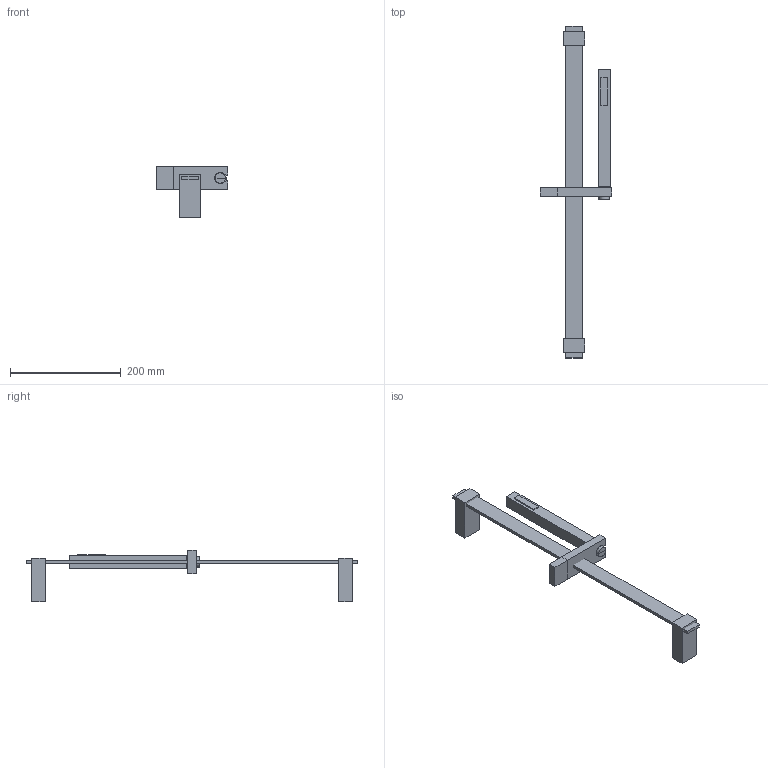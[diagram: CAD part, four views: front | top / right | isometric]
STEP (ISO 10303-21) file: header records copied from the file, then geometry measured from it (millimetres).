
FILE_DESCRIPTION(('FreeCAD Model'),'2;1');
FILE_NAME('Open CASCADE Shape Model','2024-08-10T23:45:35',('Author'),( ''),'Open CASCADE STEP processor 7.6','FreeCAD','Unknown');
FILE_SCHEMA(('AUTOMOTIVE_DESIGN { 1 0 10303 214 1 1 1 1 }'));
Length unit declared in the file: millimetre
Products named in the file (9): TopLevelAssembly; Wyciąganie001; Obrót profilu; Wyciąganie002; Wyciąganie003; Wyciąganie004; Wyciąganie005; Wyciąganie008; Wyciąganie009
Assembly tree (8 placements, depth 2):
  TopLevelAssembly
    Wyciąganie001
    Obrót profilu
    Wyciąganie002
    Wyciąganie003
    Wyciąganie004
    Wyciąganie005
    Wyciąganie008
    Wyciąganie009
Bounding box: 130 x 600 x 92.5 mm (x, y, z)
Volume: 434295.7 mm3; surface area: 106823.7 mm2
Topology: 8 solids, 8 shells, 55 faces, 113 edges, 74 vertices
Faces by surface type: plane 51, cylinder 4
Entity records: 1646 total; most frequent: CARTESIAN_POINT 251, DIRECTION 249, ORIENTED_EDGE 226, EDGE_CURVE 113, LINE 105, VECTOR 105, VERTEX_POINT 74, AXIS2_PLACEMENT_3D 72
